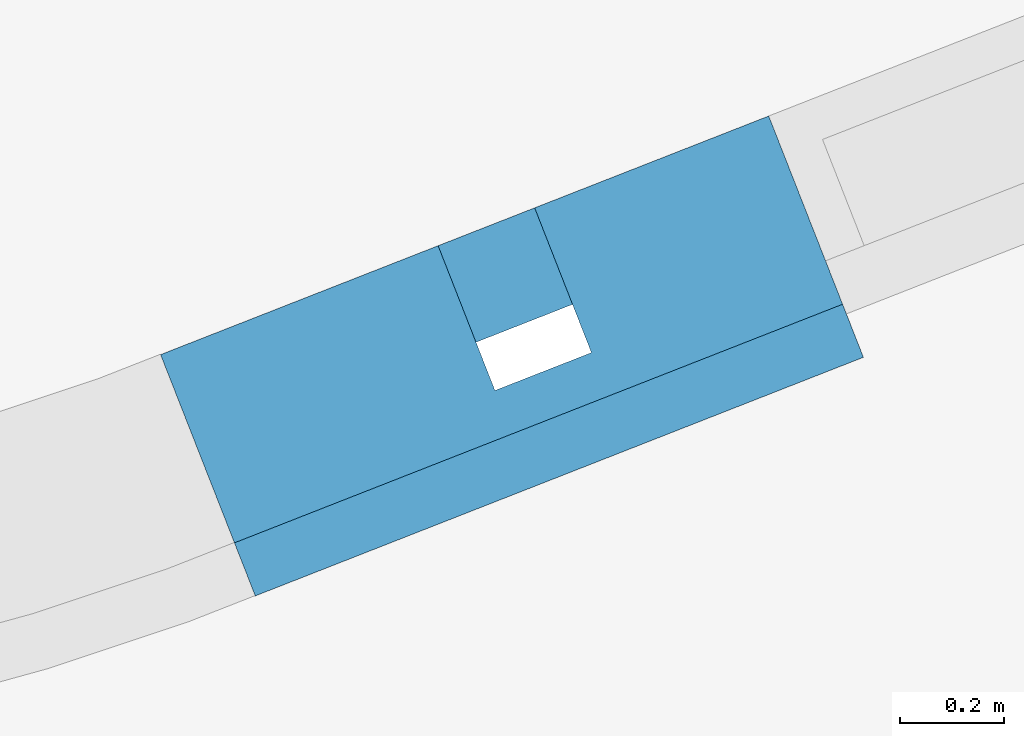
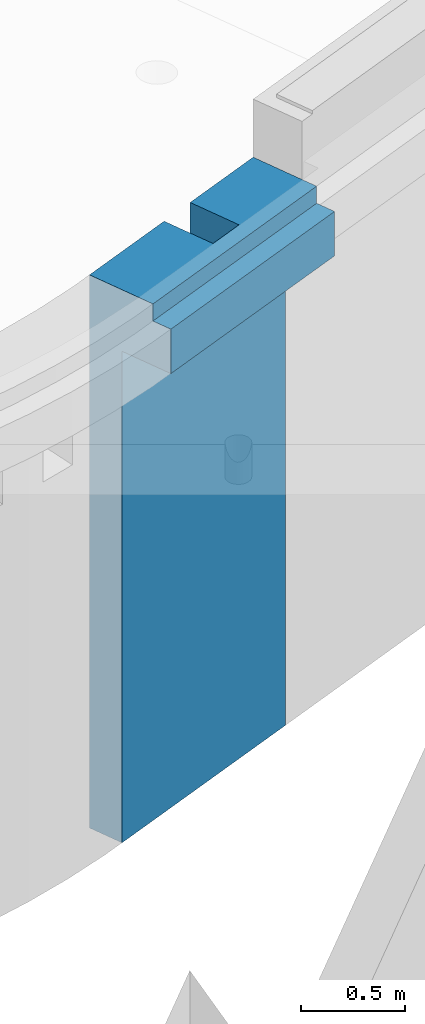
# One storey, part 14 of 28: 1 wall, 1 opening.
"""IFC2X3 building model written with IfcOpenShell, lengths in metres."""

from ifc_helpers import new_model, entity, si_unit, converted_unit, direction, frame, origin, origin_with_axes, place, context, subcontext, project, spatial, polyline, outline, extrude, clip, bounded_halfspace, material, layer, layer_set, layer_usage, element, save


model = new_model("IFC2X3")

# Units and contexts
model_context = context("Model", 3, precision=1e-05, world=origin(), true_north=direction((-0.407059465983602, -0.913401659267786)))
body_context = subcontext(model_context, "Body", "Model", "MODEL_VIEW")
ifc_project = project(units=[si_unit("LENGTHUNIT", "METRE"), si_unit("AREAUNIT", "SQUARE_METRE"), si_unit("VOLUMEUNIT", "CUBIC_METRE"), si_unit("MASSUNIT", "GRAM", prefix="KILO"), converted_unit("PLANEANGLEUNIT", "DEGREE", entity("IfcPlaneAngleMeasure", 0.0174532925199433), si_unit("PLANEANGLEUNIT", "RADIAN"), dimensions=[0, 0, 0, 0, 0, 0, 0])], contexts=[model_context])

# Site, buildings, storey
site_placement = place(None, origin())
site = spatial("IfcSite", under=ifc_project, at=site_placement, Name="Site", CompositionType="ELEMENT")
building_1_placement = place(site_placement, origin())
building_1 = spatial("IfcBuilding", under=site, at=building_1_placement, Name="Site", CompositionType="COMPLEX")
building_2_placement = place(building_1_placement, origin())
building_2 = spatial("IfcBuilding", under=building_1, at=building_2_placement, Name="Bâtiments", CompositionType="ELEMENT")
storey_placement = place(building_2_placement, frame((0.0, 0.0, -5.3)))
storey = spatial("IfcBuildingStorey", under=building_2, at=storey_placement, Name="SOUS-SOL", CompositionType="ELEMENT", Elevation=-5.3)

# Wall, opening
ifc_material_1 = material(Name="Béton")
ifc_layer_1 = layer(ifc_material_1, 0.110000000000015)
ifc_material_2 = material(Name="Béton")
ifc_layer_2 = layer(ifc_material_2, 0.189999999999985)
ifc_material_3 = material(Name="Béton")
ifc_layer_3 = layer(ifc_material_3, 0.2)
ifc_layer_set = layer_set([ifc_layer_1, ifc_layer_2, ifc_layer_3])
ifc_layer_usage = layer_usage(ifc_layer_set, "AXIS2", "POSITIVE", 0.0)
wall_placement = place(storey_placement, frame((23.0210984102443, -25.2970122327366, 1.81), z_axis=(0.0, 0.0, 1.0), x_axis=(-0.930911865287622, -0.365243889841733, 0.0)))
wall = element("IfcWallStandardCase", 1, at=wall_placement, inside=storey, material=ifc_layer_usage, context=body_context, shape_type="Clipping", body=[
    clip(clip(extrude(outline(polyline([(-1.42995241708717, -0.433298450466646), (-0.17000493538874, -0.433298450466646), (-0.170004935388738, -0.233298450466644), (-0.170005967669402, -0.233298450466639), (-0.170007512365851, 0.0659799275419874), (-0.170004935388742, 0.0659799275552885), (-0.170004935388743, 0.0667015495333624), (-1.42995241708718, 0.0667015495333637), (-1.42995241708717, -0.433298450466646)])), frame((1.42995241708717, 0.433298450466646, 0.0), z_axis=(0.0, 0.0, 1.0), x_axis=(1.0, 0.0, 0.0)), (0.0, 0.0, 1.0), 3.24), bounded_halfspace(frame((0.75596787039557, 0.379855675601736, 2.88), z_axis=(9.02315206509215e-17, 3.78956435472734e-16, 1.0), x_axis=(1.0, 1.16573417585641e-15, -1.80462893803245e-16)), True, origin_with_axes(), polyline([(-2.03215222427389e-15, 0.200000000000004), (1.2599469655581, 0.200000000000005), (1.25994490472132, 0.499278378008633), (1.25994748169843, 0.500000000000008), (-6.76436684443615e-15, 0.50000000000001), (-2.03215222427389e-15, 0.200000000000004)]))), bounded_halfspace(frame((0.755967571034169, 0.45585567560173, 3.14), z_axis=(0.0, 0.0, -1.0), x_axis=(1.0, 5.55111512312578e-17, 0.0)), True, origin_with_axes(), polyline([(1.3926637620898e-15, 0.389999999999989), (1.25994546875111, 0.389999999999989), (1.25994490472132, 0.499278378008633), (1.25994748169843, 0.500000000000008), (-6.76436684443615e-15, 0.50000000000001), (1.3926637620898e-15, 0.389999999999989)]))),
])
opening_placement = place(wall_placement, frame((0.484963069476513, 1.93267624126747e-15, 2.59), z_axis=(6.82121026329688e-15, 1.0, 0.0), x_axis=(0.0, 0.0, 1.0)))
element("IfcOpeningElement", 2, at=opening_placement, cuts=wall, Name="Percement dans mur", ObjectType="Opening", context=body_context, shape_type="SweptSolid", body=[
    extrude(outline(polyline([(0.0, 0.200000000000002), (0.65, 0.200000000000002), (0.65, 0.0), (0.0, 0.0), (0.0, 0.200000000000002)])), origin_with_axes(), (0.0, 0.0, 1.0), 0.200000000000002),
    extrude(outline(polyline([(0.0, 0.200000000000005), (0.65, 0.200000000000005), (0.65, 0.0), (0.0, 0.0), (0.0, 0.200000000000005)])), frame((0.0, 1.4210854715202e-17, 0.200000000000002), z_axis=(0.0, 0.0, 1.0), x_axis=(1.0, 0.0, 0.0)), (0.0, 0.0, 1.0), 0.0999999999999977),
])

save(model, "model.ifc")
